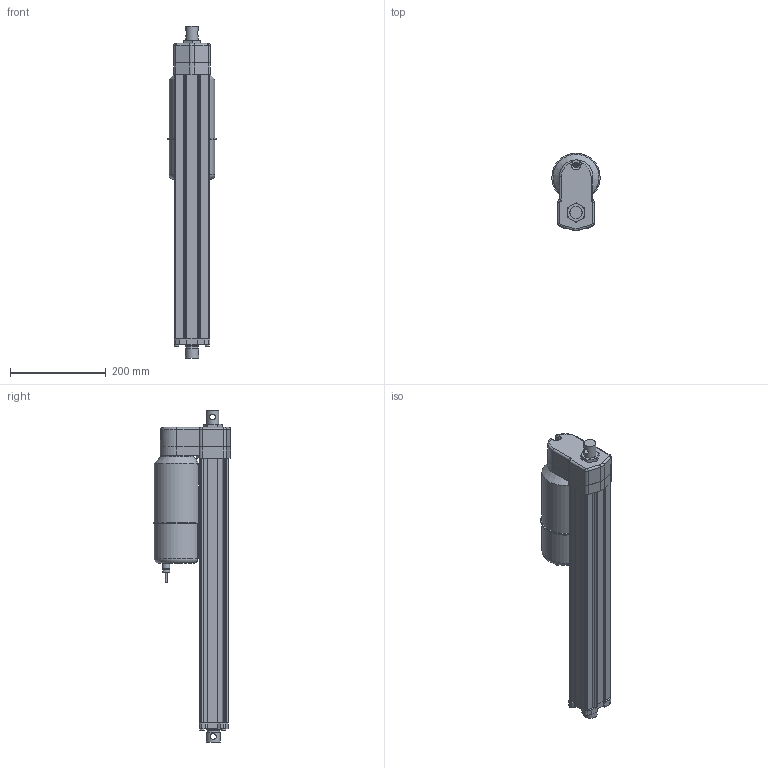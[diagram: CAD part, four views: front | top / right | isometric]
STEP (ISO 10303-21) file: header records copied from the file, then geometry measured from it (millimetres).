
FILE_DESCRIPTION (( 'STEP AP214' ), '1' );
FILE_NAME ('AA22-05A65M-45M0N-tollo.step', '2020-04-13T18:50:25', ( '' ), ( '' ), 'SwSTEP 2.0', 'SolidWorks 2010', '' );
FILE_SCHEMA (( 'AUTOMOTIVE_DESIGN' ));
Length unit declared in the file: millimetre
Products named in the file (8): Electrak-LA24-Motor-AA22-05A65M-45M0N-tollo_Electrak-LA24-Motor-AA22-05A65M-45M0N-tollo; Electrak-LA24-Rear-AA22-05A65M-45M0N-tollo_Electrak-LA24-Rear-AA22-05A65M-45M0N-tollo; Electrak-LA24-Tube-AA22-05A65M-45M0N-tollo_Electrak-LA24-Tube-AA22-05A65M-45M0N-tollo; Electrak-LA24-Rod-AA22-05A65M-45M0N-tollo_Electrak-LA24-Rod-AA22-05A65M-45M0N-tollo; Electrak-LA24-Plate-AA22-05A65M-45M0N-tollo_Electrak-LA24-Plate-AA22-05A65M-45M0N-tollo; Screw-MFX-H-M5_Screw-MFX-H-M5x24H; Screw-M6S-M5-AA22-05A65M-45M0N-tollo_Screw-M6S-M5-AA22-05A65M-45M0N-tollo; AA22-05A65M-45M0N-tollo
Assembly tree (10 placements, depth 2):
  AA22-05A65M-45M0N-tollo
    Electrak-LA24-Plate-AA22-05A65M-45M0N-tollo_Electrak-LA24-Plate-AA22-05A65M-45M0N-tollo
    Screw-MFX-H-M5_Screw-MFX-H-M5x24H
    Electrak-LA24-Rod-AA22-05A65M-45M0N-tollo_Electrak-LA24-Rod-AA22-05A65M-45M0N-tollo
    Screw-M6S-M5-AA22-05A65M-45M0N-tollo_Screw-M6S-M5-AA22-05A65M-45M0N-tollo  x4
    Electrak-LA24-Motor-AA22-05A65M-45M0N-tollo_Electrak-LA24-Motor-AA22-05A65M-45M0N-tollo
    Electrak-LA24-Tube-AA22-05A65M-45M0N-tollo_Electrak-LA24-Tube-AA22-05A65M-45M0N-tollo
    Electrak-LA24-Rear-AA22-05A65M-45M0N-tollo_Electrak-LA24-Rear-AA22-05A65M-45M0N-tollo
Bounding box: 100.99 x 162.5 x 692.8 mm (x, y, z)
Volume: 3066537.9 mm3; surface area: 510766.5 mm2
Topology: 10 solids, 10 shells, 353 faces, 886 edges, 572 vertices
Faces by surface type: plane 174, cylinder 128, cone 31, torus 15, bspline 3, sphere 2
Full cylindrical faces by diameter (mm): 4 x1, 4.126 x5, 4.8 x6, 5 x5, 5.6 x4, 7.878 x4, 9.3 x1, 10 x1, 12.2 x2, 15 x2, 25.4 x1, 28.6 x4, 47.625 x1, 68 x1
Entity records: 9633 total; most frequent: CARTESIAN_POINT 2397, DIRECTION 1446, ORIENTED_EDGE 1338, EDGE_CURVE 669, AXIS2_PLACEMENT_3D 527, VERTEX_POINT 460, LINE 392, VECTOR 392
